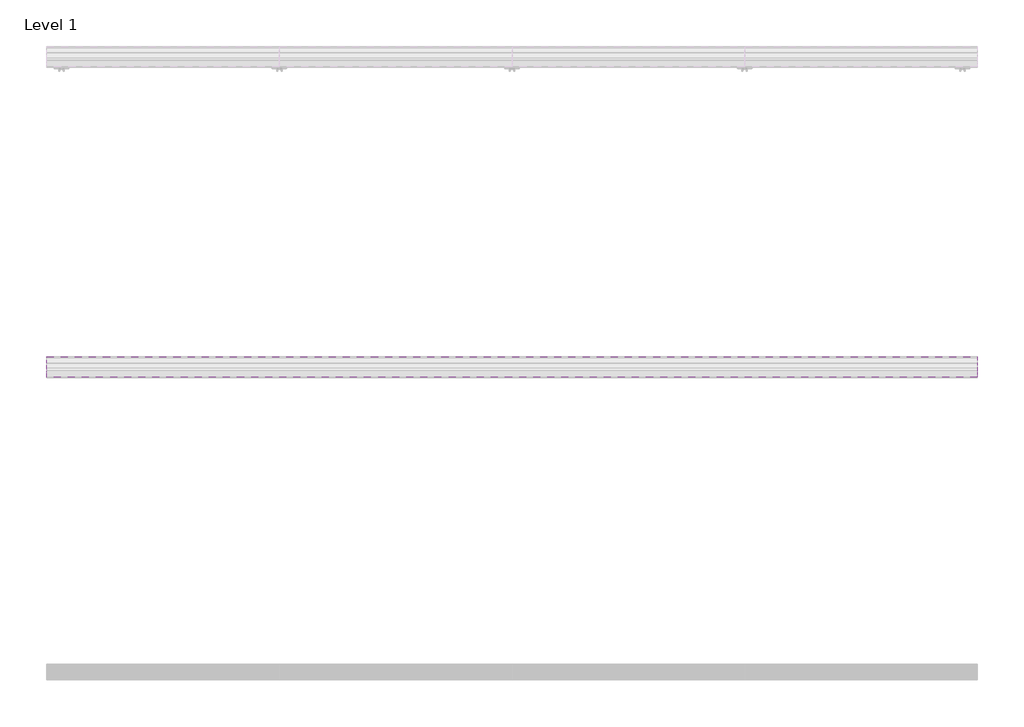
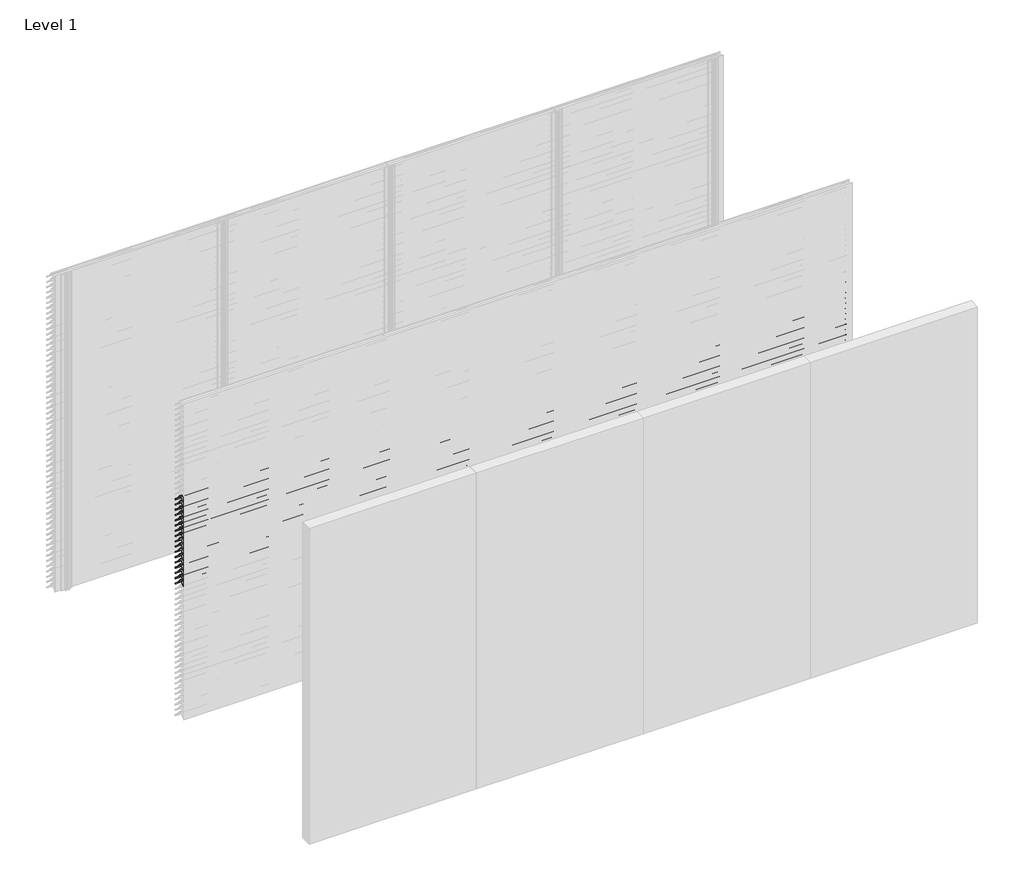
# One storey, part 4 of 173: 17 proxies.
"""IFC4 building model written with IfcOpenShell, lengths in millimetres."""

from ifc_helpers import new_model, si_unit, point, frame, frame_2d, origin, place, context, project, spatial, polyline, circle_curve, trimmed, segment, composite_curve, outline, extrude, element, save

model = new_model("IFC4")

# Units and contexts
model_context = context("Model", 3, world=origin())
ifc_project = project(units=[si_unit("LENGTHUNIT", "METRE", prefix="MILLI")], contexts=[model_context])

# Site, building, storey
site = spatial("IfcSite", under=ifc_project)
building = spatial("IfcBuilding", under=site)
storey = spatial("IfcBuildingStorey", under=building, Name="Level 1", Elevation=0.0)

# Proxies
placement = place(None, origin())
element("IfcBuildingElementProxy", 1, Name="Wall Sweeps", at=placement, inside=storey, context=model_context, shape_type="SweptSolid", body=[
    extrude(outline(composite_curve([segment(polyline([(-55998.0, 2059.1474905), (-55998.0, 2061.6227417)]), True, "CONTINUOUS"), segment(trimmed(circle_curve(frame_2d((-55951.2682172, 2016.2200208)), 65.1557103), [point((-55998.0, 2061.6227417))], [point((-55954.4014323, 2081.3003524))], False, "CARTESIAN"), True, "CONTINUOUS"), segment(polyline([(-55954.4014323, 2081.3003524), (-55934.8315836, 2081.3003524)]), True, "CONTINUOUS"), segment(trimmed(circle_curve(frame_2d((-55732.7329489, 2228.5533172)), 250.0545817), [point((-55934.8315836, 2081.3003524))], [point((-55941.4452143, 2090.8344583))], False, "CARTESIAN"), True, "CONTINUOUS"), segment(trimmed(circle_curve(frame_2d((-55953.2981792, 2085.1737835)), 13.1352966), [point((-55941.4452143, 2090.8344583))], [point((-55953.8171475, 2098.298824))], True, "CARTESIAN"), True, "CONTINUOUS"), segment(polyline([(-55953.8171475, 2098.298824), (-55953.8171475, 2100.0)]), True, "CONTINUOUS"), segment(trimmed(circle_curve(frame_2d((-55953.2981792, 2085.1737835)), 14.8352966), [point((-55953.8171475, 2100.0))], [point((-55939.9637661, 2091.6760487))], False, "CARTESIAN"), True, "CONTINUOUS"), segment(trimmed(circle_curve(frame_2d((-55732.7329489, 2228.5533172)), 248.3545817), [point((-55939.9637661, 2091.6760487))], [point((-55873.8787895, 2024.2059416))], True, "CARTESIAN"), True, "CONTINUOUS"), segment(trimmed(circle_curve(frame_2d((-55883.8147537, 2011.6649442)), 16.0), [point((-55873.8787895, 2024.2059416))], [point((-55867.8648347, 2010.4))], False, "CARTESIAN"), True, "CONTINUOUS"), segment(polyline([(-55867.8648347, 2010.4), (-55869.6712069, 2010.4)]), True, "CONTINUOUS"), segment(trimmed(circle_curve(frame_2d((-55883.8147537, 2011.6649442)), 14.2), [point((-55869.6712069, 2010.4))], [point((-55874.9518628, 2022.7594998))], True, "CARTESIAN"), True, "CONTINUOUS"), segment(trimmed(circle_curve(frame_2d((-55732.7329489, 2228.5533172)), 250.1545817), [point((-55874.9518628, 2022.7594998))], [point((-55933.7064024, 2079.6003524))], False, "CARTESIAN"), True, "CONTINUOUS"), segment(polyline([(-55933.7064024, 2079.6003524), (-55954.3602632, 2079.6003524)]), True, "CONTINUOUS"), segment(trimmed(circle_curve(frame_2d((-55951.2682172, 2016.2200208)), 63.4557103), [point((-55954.3602632, 2079.6003524))], [point((-55998.0, 2059.1474905))], True, "CARTESIAN"), True, "CONTINUOUS")], self_intersect=False)), frame((0.0, 0.0, 0.0), z_axis=(1.0, 0.0, 0.0), x_axis=(0.0, 1.0, 0.0)), (0.0, 0.0, 1.0), 6000.0),
])
element("IfcBuildingElementProxy", 2, Name="Wall Sweeps", at=placement, inside=storey, context=model_context, shape_type="SweptSolid", body=[
    extrude(outline(composite_curve([segment(polyline([(-55998.0, 2009.1474905), (-55998.0, 2011.6227417)]), True, "CONTINUOUS"), segment(trimmed(circle_curve(frame_2d((-55951.2682172, 1966.2200208)), 65.1557103), [point((-55998.0, 2011.6227417))], [point((-55954.4014323, 2031.3003524))], False, "CARTESIAN"), True, "CONTINUOUS"), segment(polyline([(-55954.4014323, 2031.3003524), (-55934.8315836, 2031.3003524)]), True, "CONTINUOUS"), segment(trimmed(circle_curve(frame_2d((-55732.7329489, 2178.5533172)), 250.0545817), [point((-55934.8315836, 2031.3003524))], [point((-55941.4452143, 2040.8344583))], False, "CARTESIAN"), True, "CONTINUOUS"), segment(trimmed(circle_curve(frame_2d((-55953.2981792, 2035.1737835)), 13.1352966), [point((-55941.4452143, 2040.8344583))], [point((-55953.8171475, 2048.298824))], True, "CARTESIAN"), True, "CONTINUOUS"), segment(polyline([(-55953.8171475, 2048.298824), (-55953.8171475, 2050.0)]), True, "CONTINUOUS"), segment(trimmed(circle_curve(frame_2d((-55953.2981792, 2035.1737835)), 14.8352966), [point((-55953.8171475, 2050.0))], [point((-55939.9637661, 2041.6760487))], False, "CARTESIAN"), True, "CONTINUOUS"), segment(trimmed(circle_curve(frame_2d((-55732.7329489, 2178.5533172)), 248.3545817), [point((-55939.9637661, 2041.6760487))], [point((-55873.8787895, 1974.2059416))], True, "CARTESIAN"), True, "CONTINUOUS"), segment(trimmed(circle_curve(frame_2d((-55883.8147537, 1961.6649442)), 16.0), [point((-55873.8787895, 1974.2059416))], [point((-55867.8648347, 1960.4))], False, "CARTESIAN"), True, "CONTINUOUS"), segment(polyline([(-55867.8648347, 1960.4), (-55869.6712069, 1960.4)]), True, "CONTINUOUS"), segment(trimmed(circle_curve(frame_2d((-55883.8147537, 1961.6649442)), 14.2), [point((-55869.6712069, 1960.4))], [point((-55874.9518628, 1972.7594998))], True, "CARTESIAN"), True, "CONTINUOUS"), segment(trimmed(circle_curve(frame_2d((-55732.7329489, 2178.5533172)), 250.1545817), [point((-55874.9518628, 1972.7594998))], [point((-55933.7064024, 2029.6003524))], False, "CARTESIAN"), True, "CONTINUOUS"), segment(polyline([(-55933.7064024, 2029.6003524), (-55954.3602632, 2029.6003524)]), True, "CONTINUOUS"), segment(trimmed(circle_curve(frame_2d((-55951.2682172, 1966.2200208)), 63.4557103), [point((-55954.3602632, 2029.6003524))], [point((-55998.0, 2009.1474905))], True, "CARTESIAN"), True, "CONTINUOUS")], self_intersect=False)), frame((0.0, 0.0, 0.0), z_axis=(1.0, 0.0, 0.0), x_axis=(0.0, 1.0, 0.0)), (0.0, 0.0, 1.0), 6000.0),
])
element("IfcBuildingElementProxy", 3, Name="Wall Sweeps", at=placement, inside=storey, context=model_context, shape_type="SweptSolid", body=[
    extrude(outline(composite_curve([segment(polyline([(-55998.0, 1959.1474905), (-55998.0, 1961.6227417)]), True, "CONTINUOUS"), segment(trimmed(circle_curve(frame_2d((-55951.2682172, 1916.2200208)), 65.1557103), [point((-55998.0, 1961.6227417))], [point((-55954.4014323, 1981.3003524))], False, "CARTESIAN"), True, "CONTINUOUS"), segment(polyline([(-55954.4014323, 1981.3003524), (-55934.8315836, 1981.3003524)]), True, "CONTINUOUS"), segment(trimmed(circle_curve(frame_2d((-55732.7329489, 2128.5533172)), 250.0545817), [point((-55934.8315836, 1981.3003524))], [point((-55941.4452143, 1990.8344583))], False, "CARTESIAN"), True, "CONTINUOUS"), segment(trimmed(circle_curve(frame_2d((-55953.2981792, 1985.1737835)), 13.1352966), [point((-55941.4452143, 1990.8344583))], [point((-55953.8171475, 1998.298824))], True, "CARTESIAN"), True, "CONTINUOUS"), segment(polyline([(-55953.8171475, 1998.298824), (-55953.8171475, 2000.0)]), True, "CONTINUOUS"), segment(trimmed(circle_curve(frame_2d((-55953.2981792, 1985.1737835)), 14.8352966), [point((-55953.8171475, 2000.0))], [point((-55939.9637661, 1991.6760487))], False, "CARTESIAN"), True, "CONTINUOUS"), segment(trimmed(circle_curve(frame_2d((-55732.7329489, 2128.5533172)), 248.3545817), [point((-55939.9637661, 1991.6760487))], [point((-55873.8787895, 1924.2059416))], True, "CARTESIAN"), True, "CONTINUOUS"), segment(trimmed(circle_curve(frame_2d((-55883.8147537, 1911.6649442)), 16.0), [point((-55873.8787895, 1924.2059416))], [point((-55867.8648347, 1910.4))], False, "CARTESIAN"), True, "CONTINUOUS"), segment(polyline([(-55867.8648347, 1910.4), (-55869.6712069, 1910.4)]), True, "CONTINUOUS"), segment(trimmed(circle_curve(frame_2d((-55883.8147537, 1911.6649442)), 14.2), [point((-55869.6712069, 1910.4))], [point((-55874.9518628, 1922.7594998))], True, "CARTESIAN"), True, "CONTINUOUS"), segment(trimmed(circle_curve(frame_2d((-55732.7329489, 2128.5533172)), 250.1545817), [point((-55874.9518628, 1922.7594998))], [point((-55933.7064024, 1979.6003524))], False, "CARTESIAN"), True, "CONTINUOUS"), segment(polyline([(-55933.7064024, 1979.6003524), (-55954.3602632, 1979.6003524)]), True, "CONTINUOUS"), segment(trimmed(circle_curve(frame_2d((-55951.2682172, 1916.2200208)), 63.4557103), [point((-55954.3602632, 1979.6003524))], [point((-55998.0, 1959.1474905))], True, "CARTESIAN"), True, "CONTINUOUS")], self_intersect=False)), frame((0.0, 0.0, 0.0), z_axis=(1.0, 0.0, 0.0), x_axis=(0.0, 1.0, 0.0)), (0.0, 0.0, 1.0), 6000.0),
])
element("IfcBuildingElementProxy", 4, Name="Wall Sweeps", at=placement, inside=storey, context=model_context, shape_type="SweptSolid", body=[
    extrude(outline(composite_curve([segment(polyline([(-55998.0, 1909.1474905), (-55998.0, 1911.6227417)]), True, "CONTINUOUS"), segment(trimmed(circle_curve(frame_2d((-55951.2682172, 1866.2200208)), 65.1557103), [point((-55998.0, 1911.6227417))], [point((-55954.4014323, 1931.3003524))], False, "CARTESIAN"), True, "CONTINUOUS"), segment(polyline([(-55954.4014323, 1931.3003524), (-55934.8315836, 1931.3003524)]), True, "CONTINUOUS"), segment(trimmed(circle_curve(frame_2d((-55732.7329489, 2078.5533172)), 250.0545817), [point((-55934.8315836, 1931.3003524))], [point((-55941.4452143, 1940.8344583))], False, "CARTESIAN"), True, "CONTINUOUS"), segment(trimmed(circle_curve(frame_2d((-55953.2981792, 1935.1737835)), 13.1352966), [point((-55941.4452143, 1940.8344583))], [point((-55953.8171475, 1948.298824))], True, "CARTESIAN"), True, "CONTINUOUS"), segment(polyline([(-55953.8171475, 1948.298824), (-55953.8171475, 1950.0)]), True, "CONTINUOUS"), segment(trimmed(circle_curve(frame_2d((-55953.2981792, 1935.1737835)), 14.8352966), [point((-55953.8171475, 1950.0))], [point((-55939.9637661, 1941.6760487))], False, "CARTESIAN"), True, "CONTINUOUS"), segment(trimmed(circle_curve(frame_2d((-55732.7329489, 2078.5533172)), 248.3545817), [point((-55939.9637661, 1941.6760487))], [point((-55873.8787895, 1874.2059416))], True, "CARTESIAN"), True, "CONTINUOUS"), segment(trimmed(circle_curve(frame_2d((-55883.8147537, 1861.6649442)), 16.0), [point((-55873.8787895, 1874.2059416))], [point((-55867.8648347, 1860.4))], False, "CARTESIAN"), True, "CONTINUOUS"), segment(polyline([(-55867.8648347, 1860.4), (-55869.6712069, 1860.4)]), True, "CONTINUOUS"), segment(trimmed(circle_curve(frame_2d((-55883.8147537, 1861.6649442)), 14.2), [point((-55869.6712069, 1860.4))], [point((-55874.9518628, 1872.7594998))], True, "CARTESIAN"), True, "CONTINUOUS"), segment(trimmed(circle_curve(frame_2d((-55732.7329489, 2078.5533172)), 250.1545817), [point((-55874.9518628, 1872.7594998))], [point((-55933.7064024, 1929.6003524))], False, "CARTESIAN"), True, "CONTINUOUS"), segment(polyline([(-55933.7064024, 1929.6003524), (-55954.3602632, 1929.6003524)]), True, "CONTINUOUS"), segment(trimmed(circle_curve(frame_2d((-55951.2682172, 1866.2200208)), 63.4557103), [point((-55954.3602632, 1929.6003524))], [point((-55998.0, 1909.1474905))], True, "CARTESIAN"), True, "CONTINUOUS")], self_intersect=False)), frame((0.0, 0.0, 0.0), z_axis=(1.0, 0.0, 0.0), x_axis=(0.0, 1.0, 0.0)), (0.0, 0.0, 1.0), 6000.0),
])
element("IfcBuildingElementProxy", 5, Name="Wall Sweeps", at=placement, inside=storey, context=model_context, shape_type="SweptSolid", body=[
    extrude(outline(composite_curve([segment(polyline([(-55998.0, 1859.1474905), (-55998.0, 1861.6227417)]), True, "CONTINUOUS"), segment(trimmed(circle_curve(frame_2d((-55951.2682172, 1816.2200208)), 65.1557103), [point((-55998.0, 1861.6227417))], [point((-55954.4014323, 1881.3003524))], False, "CARTESIAN"), True, "CONTINUOUS"), segment(polyline([(-55954.4014323, 1881.3003524), (-55934.8315836, 1881.3003524)]), True, "CONTINUOUS"), segment(trimmed(circle_curve(frame_2d((-55732.7329489, 2028.5533172)), 250.0545817), [point((-55934.8315836, 1881.3003524))], [point((-55941.4452143, 1890.8344583))], False, "CARTESIAN"), True, "CONTINUOUS"), segment(trimmed(circle_curve(frame_2d((-55953.2981792, 1885.1737835)), 13.1352966), [point((-55941.4452143, 1890.8344583))], [point((-55953.8171475, 1898.298824))], True, "CARTESIAN"), True, "CONTINUOUS"), segment(polyline([(-55953.8171475, 1898.298824), (-55953.8171475, 1900.0)]), True, "CONTINUOUS"), segment(trimmed(circle_curve(frame_2d((-55953.2981792, 1885.1737835)), 14.8352966), [point((-55953.8171475, 1900.0))], [point((-55939.9637661, 1891.6760487))], False, "CARTESIAN"), True, "CONTINUOUS"), segment(trimmed(circle_curve(frame_2d((-55732.7329489, 2028.5533172)), 248.3545817), [point((-55939.9637661, 1891.6760487))], [point((-55873.8787895, 1824.2059416))], True, "CARTESIAN"), True, "CONTINUOUS"), segment(trimmed(circle_curve(frame_2d((-55883.8147537, 1811.6649442)), 16.0), [point((-55873.8787895, 1824.2059416))], [point((-55867.8648347, 1810.4))], False, "CARTESIAN"), True, "CONTINUOUS"), segment(polyline([(-55867.8648347, 1810.4), (-55869.6712069, 1810.4)]), True, "CONTINUOUS"), segment(trimmed(circle_curve(frame_2d((-55883.8147537, 1811.6649442)), 14.2), [point((-55869.6712069, 1810.4))], [point((-55874.9518628, 1822.7594998))], True, "CARTESIAN"), True, "CONTINUOUS"), segment(trimmed(circle_curve(frame_2d((-55732.7329489, 2028.5533172)), 250.1545817), [point((-55874.9518628, 1822.7594998))], [point((-55933.7064024, 1879.6003524))], False, "CARTESIAN"), True, "CONTINUOUS"), segment(polyline([(-55933.7064024, 1879.6003524), (-55954.3602632, 1879.6003524)]), True, "CONTINUOUS"), segment(trimmed(circle_curve(frame_2d((-55951.2682172, 1816.2200208)), 63.4557103), [point((-55954.3602632, 1879.6003524))], [point((-55998.0, 1859.1474905))], True, "CARTESIAN"), True, "CONTINUOUS")], self_intersect=False)), frame((0.0, 0.0, 0.0), z_axis=(1.0, 0.0, 0.0), x_axis=(0.0, 1.0, 0.0)), (0.0, 0.0, 1.0), 6000.0),
])
element("IfcBuildingElementProxy", 6, Name="Wall Sweeps", at=placement, inside=storey, context=model_context, shape_type="SweptSolid", body=[
    extrude(outline(composite_curve([segment(polyline([(-55998.0, 1809.1474905), (-55998.0, 1811.6227417)]), True, "CONTINUOUS"), segment(trimmed(circle_curve(frame_2d((-55951.2682172, 1766.2200208)), 65.1557103), [point((-55998.0, 1811.6227417))], [point((-55954.4014323, 1831.3003524))], False, "CARTESIAN"), True, "CONTINUOUS"), segment(polyline([(-55954.4014323, 1831.3003524), (-55934.8315836, 1831.3003524)]), True, "CONTINUOUS"), segment(trimmed(circle_curve(frame_2d((-55732.7329489, 1978.5533172)), 250.0545817), [point((-55934.8315836, 1831.3003524))], [point((-55941.4452143, 1840.8344583))], False, "CARTESIAN"), True, "CONTINUOUS"), segment(trimmed(circle_curve(frame_2d((-55953.2981792, 1835.1737835)), 13.1352966), [point((-55941.4452143, 1840.8344583))], [point((-55953.8171475, 1848.298824))], True, "CARTESIAN"), True, "CONTINUOUS"), segment(polyline([(-55953.8171475, 1848.298824), (-55953.8171475, 1850.0)]), True, "CONTINUOUS"), segment(trimmed(circle_curve(frame_2d((-55953.2981792, 1835.1737835)), 14.8352966), [point((-55953.8171475, 1850.0))], [point((-55939.9637661, 1841.6760487))], False, "CARTESIAN"), True, "CONTINUOUS"), segment(trimmed(circle_curve(frame_2d((-55732.7329489, 1978.5533172)), 248.3545817), [point((-55939.9637661, 1841.6760487))], [point((-55873.8787895, 1774.2059416))], True, "CARTESIAN"), True, "CONTINUOUS"), segment(trimmed(circle_curve(frame_2d((-55883.8147537, 1761.6649442)), 16.0), [point((-55873.8787895, 1774.2059416))], [point((-55867.8648347, 1760.4))], False, "CARTESIAN"), True, "CONTINUOUS"), segment(polyline([(-55867.8648347, 1760.4), (-55869.6712069, 1760.4)]), True, "CONTINUOUS"), segment(trimmed(circle_curve(frame_2d((-55883.8147537, 1761.6649442)), 14.2), [point((-55869.6712069, 1760.4))], [point((-55874.9518628, 1772.7594998))], True, "CARTESIAN"), True, "CONTINUOUS"), segment(trimmed(circle_curve(frame_2d((-55732.7329489, 1978.5533172)), 250.1545817), [point((-55874.9518628, 1772.7594998))], [point((-55933.7064024, 1829.6003524))], False, "CARTESIAN"), True, "CONTINUOUS"), segment(polyline([(-55933.7064024, 1829.6003524), (-55954.3602632, 1829.6003524)]), True, "CONTINUOUS"), segment(trimmed(circle_curve(frame_2d((-55951.2682172, 1766.2200208)), 63.4557103), [point((-55954.3602632, 1829.6003524))], [point((-55998.0, 1809.1474905))], True, "CARTESIAN"), True, "CONTINUOUS")], self_intersect=False)), frame((0.0, 0.0, 0.0), z_axis=(1.0, 0.0, 0.0), x_axis=(0.0, 1.0, 0.0)), (0.0, 0.0, 1.0), 6000.0),
])
element("IfcBuildingElementProxy", 7, Name="Wall Sweeps", at=placement, inside=storey, context=model_context, shape_type="SweptSolid", body=[
    extrude(outline(composite_curve([segment(polyline([(-55998.0, 1759.1474905), (-55998.0, 1761.6227417)]), True, "CONTINUOUS"), segment(trimmed(circle_curve(frame_2d((-55951.2682172, 1716.2200208)), 65.1557103), [point((-55998.0, 1761.6227417))], [point((-55954.4014323, 1781.3003524))], False, "CARTESIAN"), True, "CONTINUOUS"), segment(polyline([(-55954.4014323, 1781.3003524), (-55934.8315836, 1781.3003524)]), True, "CONTINUOUS"), segment(trimmed(circle_curve(frame_2d((-55732.7329489, 1928.5533172)), 250.0545817), [point((-55934.8315836, 1781.3003524))], [point((-55941.4452143, 1790.8344583))], False, "CARTESIAN"), True, "CONTINUOUS"), segment(trimmed(circle_curve(frame_2d((-55953.2981792, 1785.1737835)), 13.1352966), [point((-55941.4452143, 1790.8344583))], [point((-55953.8171475, 1798.298824))], True, "CARTESIAN"), True, "CONTINUOUS"), segment(polyline([(-55953.8171475, 1798.298824), (-55953.8171475, 1800.0)]), True, "CONTINUOUS"), segment(trimmed(circle_curve(frame_2d((-55953.2981792, 1785.1737835)), 14.8352966), [point((-55953.8171475, 1800.0))], [point((-55939.9637661, 1791.6760487))], False, "CARTESIAN"), True, "CONTINUOUS"), segment(trimmed(circle_curve(frame_2d((-55732.7329489, 1928.5533172)), 248.3545817), [point((-55939.9637661, 1791.6760487))], [point((-55873.8787895, 1724.2059416))], True, "CARTESIAN"), True, "CONTINUOUS"), segment(trimmed(circle_curve(frame_2d((-55883.8147537, 1711.6649442)), 16.0), [point((-55873.8787895, 1724.2059416))], [point((-55867.8648347, 1710.4))], False, "CARTESIAN"), True, "CONTINUOUS"), segment(polyline([(-55867.8648347, 1710.4), (-55869.6712069, 1710.4)]), True, "CONTINUOUS"), segment(trimmed(circle_curve(frame_2d((-55883.8147537, 1711.6649442)), 14.2), [point((-55869.6712069, 1710.4))], [point((-55874.9518628, 1722.7594998))], True, "CARTESIAN"), True, "CONTINUOUS"), segment(trimmed(circle_curve(frame_2d((-55732.7329489, 1928.5533172)), 250.1545817), [point((-55874.9518628, 1722.7594998))], [point((-55933.7064024, 1779.6003524))], False, "CARTESIAN"), True, "CONTINUOUS"), segment(polyline([(-55933.7064024, 1779.6003524), (-55954.3602632, 1779.6003524)]), True, "CONTINUOUS"), segment(trimmed(circle_curve(frame_2d((-55951.2682172, 1716.2200208)), 63.4557103), [point((-55954.3602632, 1779.6003524))], [point((-55998.0, 1759.1474905))], True, "CARTESIAN"), True, "CONTINUOUS")], self_intersect=False)), frame((0.0, 0.0, 0.0), z_axis=(1.0, 0.0, 0.0), x_axis=(0.0, 1.0, 0.0)), (0.0, 0.0, 1.0), 6000.0),
])
element("IfcBuildingElementProxy", 8, Name="Wall Sweeps", at=placement, inside=storey, context=model_context, shape_type="SweptSolid", body=[
    extrude(outline(composite_curve([segment(polyline([(-55998.0, 1709.1474905), (-55998.0, 1711.6227417)]), True, "CONTINUOUS"), segment(trimmed(circle_curve(frame_2d((-55951.2682172, 1666.2200208)), 65.1557103), [point((-55998.0, 1711.6227417))], [point((-55954.4014323, 1731.3003524))], False, "CARTESIAN"), True, "CONTINUOUS"), segment(polyline([(-55954.4014323, 1731.3003524), (-55934.8315836, 1731.3003524)]), True, "CONTINUOUS"), segment(trimmed(circle_curve(frame_2d((-55732.7329489, 1878.5533172)), 250.0545817), [point((-55934.8315836, 1731.3003524))], [point((-55941.4452143, 1740.8344583))], False, "CARTESIAN"), True, "CONTINUOUS"), segment(trimmed(circle_curve(frame_2d((-55953.2981792, 1735.1737835)), 13.1352966), [point((-55941.4452143, 1740.8344583))], [point((-55953.8171475, 1748.298824))], True, "CARTESIAN"), True, "CONTINUOUS"), segment(polyline([(-55953.8171475, 1748.298824), (-55953.8171475, 1750.0)]), True, "CONTINUOUS"), segment(trimmed(circle_curve(frame_2d((-55953.2981792, 1735.1737835)), 14.8352966), [point((-55953.8171475, 1750.0))], [point((-55939.9637661, 1741.6760487))], False, "CARTESIAN"), True, "CONTINUOUS"), segment(trimmed(circle_curve(frame_2d((-55732.7329489, 1878.5533172)), 248.3545817), [point((-55939.9637661, 1741.6760487))], [point((-55873.8787895, 1674.2059416))], True, "CARTESIAN"), True, "CONTINUOUS"), segment(trimmed(circle_curve(frame_2d((-55883.8147537, 1661.6649442)), 16.0), [point((-55873.8787895, 1674.2059416))], [point((-55867.8648347, 1660.4))], False, "CARTESIAN"), True, "CONTINUOUS"), segment(polyline([(-55867.8648347, 1660.4), (-55869.6712069, 1660.4)]), True, "CONTINUOUS"), segment(trimmed(circle_curve(frame_2d((-55883.8147537, 1661.6649442)), 14.2), [point((-55869.6712069, 1660.4))], [point((-55874.9518628, 1672.7594998))], True, "CARTESIAN"), True, "CONTINUOUS"), segment(trimmed(circle_curve(frame_2d((-55732.7329489, 1878.5533172)), 250.1545817), [point((-55874.9518628, 1672.7594998))], [point((-55933.7064024, 1729.6003524))], False, "CARTESIAN"), True, "CONTINUOUS"), segment(polyline([(-55933.7064024, 1729.6003524), (-55954.3602632, 1729.6003524)]), True, "CONTINUOUS"), segment(trimmed(circle_curve(frame_2d((-55951.2682172, 1666.2200208)), 63.4557103), [point((-55954.3602632, 1729.6003524))], [point((-55998.0, 1709.1474905))], True, "CARTESIAN"), True, "CONTINUOUS")], self_intersect=False)), frame((0.0, 0.0, 0.0), z_axis=(1.0, 0.0, 0.0), x_axis=(0.0, 1.0, 0.0)), (0.0, 0.0, 1.0), 6000.0),
])
element("IfcBuildingElementProxy", 9, Name="Wall Sweeps", at=placement, inside=storey, context=model_context, shape_type="SweptSolid", body=[
    extrude(outline(composite_curve([segment(polyline([(-55998.0, 1659.1474905), (-55998.0, 1661.6227417)]), True, "CONTINUOUS"), segment(trimmed(circle_curve(frame_2d((-55951.2682172, 1616.2200208)), 65.1557103), [point((-55998.0, 1661.6227417))], [point((-55954.4014323, 1681.3003524))], False, "CARTESIAN"), True, "CONTINUOUS"), segment(polyline([(-55954.4014323, 1681.3003524), (-55934.8315836, 1681.3003524)]), True, "CONTINUOUS"), segment(trimmed(circle_curve(frame_2d((-55732.7329489, 1828.5533172)), 250.0545817), [point((-55934.8315836, 1681.3003524))], [point((-55941.4452143, 1690.8344583))], False, "CARTESIAN"), True, "CONTINUOUS"), segment(trimmed(circle_curve(frame_2d((-55953.2981792, 1685.1737835)), 13.1352966), [point((-55941.4452143, 1690.8344583))], [point((-55953.8171475, 1698.298824))], True, "CARTESIAN"), True, "CONTINUOUS"), segment(polyline([(-55953.8171475, 1698.298824), (-55953.8171475, 1700.0)]), True, "CONTINUOUS"), segment(trimmed(circle_curve(frame_2d((-55953.2981792, 1685.1737835)), 14.8352966), [point((-55953.8171475, 1700.0))], [point((-55939.9637661, 1691.6760487))], False, "CARTESIAN"), True, "CONTINUOUS"), segment(trimmed(circle_curve(frame_2d((-55732.7329489, 1828.5533172)), 248.3545817), [point((-55939.9637661, 1691.6760487))], [point((-55873.8787895, 1624.2059416))], True, "CARTESIAN"), True, "CONTINUOUS"), segment(trimmed(circle_curve(frame_2d((-55883.8147537, 1611.6649442)), 16.0), [point((-55873.8787895, 1624.2059416))], [point((-55867.8648347, 1610.4))], False, "CARTESIAN"), True, "CONTINUOUS"), segment(polyline([(-55867.8648347, 1610.4), (-55869.6712069, 1610.4)]), True, "CONTINUOUS"), segment(trimmed(circle_curve(frame_2d((-55883.8147537, 1611.6649442)), 14.2), [point((-55869.6712069, 1610.4))], [point((-55874.9518628, 1622.7594998))], True, "CARTESIAN"), True, "CONTINUOUS"), segment(trimmed(circle_curve(frame_2d((-55732.7329489, 1828.5533172)), 250.1545817), [point((-55874.9518628, 1622.7594998))], [point((-55933.7064024, 1679.6003524))], False, "CARTESIAN"), True, "CONTINUOUS"), segment(polyline([(-55933.7064024, 1679.6003524), (-55954.3602632, 1679.6003524)]), True, "CONTINUOUS"), segment(trimmed(circle_curve(frame_2d((-55951.2682172, 1616.2200208)), 63.4557103), [point((-55954.3602632, 1679.6003524))], [point((-55998.0, 1659.1474905))], True, "CARTESIAN"), True, "CONTINUOUS")], self_intersect=False)), frame((0.0, 0.0, 0.0), z_axis=(1.0, 0.0, 0.0), x_axis=(0.0, 1.0, 0.0)), (0.0, 0.0, 1.0), 6000.0),
])
element("IfcBuildingElementProxy", 10, Name="Wall Sweeps", at=placement, inside=storey, context=model_context, shape_type="SweptSolid", body=[
    extrude(outline(composite_curve([segment(polyline([(-55998.0, 1609.1474905), (-55998.0, 1611.6227417)]), True, "CONTINUOUS"), segment(trimmed(circle_curve(frame_2d((-55951.2682172, 1566.2200208)), 65.1557103), [point((-55998.0, 1611.6227417))], [point((-55954.4014323, 1631.3003524))], False, "CARTESIAN"), True, "CONTINUOUS"), segment(polyline([(-55954.4014323, 1631.3003524), (-55934.8315836, 1631.3003524)]), True, "CONTINUOUS"), segment(trimmed(circle_curve(frame_2d((-55732.7329489, 1778.5533172)), 250.0545817), [point((-55934.8315836, 1631.3003524))], [point((-55941.4452143, 1640.8344583))], False, "CARTESIAN"), True, "CONTINUOUS"), segment(trimmed(circle_curve(frame_2d((-55953.2981792, 1635.1737835)), 13.1352966), [point((-55941.4452143, 1640.8344583))], [point((-55953.8171475, 1648.298824))], True, "CARTESIAN"), True, "CONTINUOUS"), segment(polyline([(-55953.8171475, 1648.298824), (-55953.8171475, 1650.0)]), True, "CONTINUOUS"), segment(trimmed(circle_curve(frame_2d((-55953.2981792, 1635.1737835)), 14.8352966), [point((-55953.8171475, 1650.0))], [point((-55939.9637661, 1641.6760487))], False, "CARTESIAN"), True, "CONTINUOUS"), segment(trimmed(circle_curve(frame_2d((-55732.7329489, 1778.5533172)), 248.3545817), [point((-55939.9637661, 1641.6760487))], [point((-55873.8787895, 1574.2059416))], True, "CARTESIAN"), True, "CONTINUOUS"), segment(trimmed(circle_curve(frame_2d((-55883.8147537, 1561.6649442)), 16.0), [point((-55873.8787895, 1574.2059416))], [point((-55867.8648347, 1560.4))], False, "CARTESIAN"), True, "CONTINUOUS"), segment(polyline([(-55867.8648347, 1560.4), (-55869.6712069, 1560.4)]), True, "CONTINUOUS"), segment(trimmed(circle_curve(frame_2d((-55883.8147537, 1561.6649442)), 14.2), [point((-55869.6712069, 1560.4))], [point((-55874.9518628, 1572.7594998))], True, "CARTESIAN"), True, "CONTINUOUS"), segment(trimmed(circle_curve(frame_2d((-55732.7329489, 1778.5533172)), 250.1545817), [point((-55874.9518628, 1572.7594998))], [point((-55933.7064024, 1629.6003524))], False, "CARTESIAN"), True, "CONTINUOUS"), segment(polyline([(-55933.7064024, 1629.6003524), (-55954.3602632, 1629.6003524)]), True, "CONTINUOUS"), segment(trimmed(circle_curve(frame_2d((-55951.2682172, 1566.2200208)), 63.4557103), [point((-55954.3602632, 1629.6003524))], [point((-55998.0, 1609.1474905))], True, "CARTESIAN"), True, "CONTINUOUS")], self_intersect=False)), frame((0.0, 0.0, 0.0), z_axis=(1.0, 0.0, 0.0), x_axis=(0.0, 1.0, 0.0)), (0.0, 0.0, 1.0), 6000.0),
])
element("IfcBuildingElementProxy", 11, Name="Wall Sweeps", at=placement, inside=storey, context=model_context, shape_type="SweptSolid", body=[
    extrude(outline(composite_curve([segment(polyline([(-55998.0, 1559.1474905), (-55998.0, 1561.6227417)]), True, "CONTINUOUS"), segment(trimmed(circle_curve(frame_2d((-55951.2682172, 1516.2200208)), 65.1557103), [point((-55998.0, 1561.6227417))], [point((-55954.4014323, 1581.3003524))], False, "CARTESIAN"), True, "CONTINUOUS"), segment(polyline([(-55954.4014323, 1581.3003524), (-55934.8315836, 1581.3003524)]), True, "CONTINUOUS"), segment(trimmed(circle_curve(frame_2d((-55732.7329489, 1728.5533172)), 250.0545817), [point((-55934.8315836, 1581.3003524))], [point((-55941.4452143, 1590.8344583))], False, "CARTESIAN"), True, "CONTINUOUS"), segment(trimmed(circle_curve(frame_2d((-55953.2981792, 1585.1737835)), 13.1352966), [point((-55941.4452143, 1590.8344583))], [point((-55953.8171475, 1598.298824))], True, "CARTESIAN"), True, "CONTINUOUS"), segment(polyline([(-55953.8171475, 1598.298824), (-55953.8171475, 1600.0)]), True, "CONTINUOUS"), segment(trimmed(circle_curve(frame_2d((-55953.2981792, 1585.1737835)), 14.8352966), [point((-55953.8171475, 1600.0))], [point((-55939.9637661, 1591.6760487))], False, "CARTESIAN"), True, "CONTINUOUS"), segment(trimmed(circle_curve(frame_2d((-55732.7329489, 1728.5533172)), 248.3545817), [point((-55939.9637661, 1591.6760487))], [point((-55873.8787895, 1524.2059416))], True, "CARTESIAN"), True, "CONTINUOUS"), segment(trimmed(circle_curve(frame_2d((-55883.8147537, 1511.6649442)), 16.0), [point((-55873.8787895, 1524.2059416))], [point((-55867.8648347, 1510.4))], False, "CARTESIAN"), True, "CONTINUOUS"), segment(polyline([(-55867.8648347, 1510.4), (-55869.6712069, 1510.4)]), True, "CONTINUOUS"), segment(trimmed(circle_curve(frame_2d((-55883.8147537, 1511.6649442)), 14.2), [point((-55869.6712069, 1510.4))], [point((-55874.9518628, 1522.7594998))], True, "CARTESIAN"), True, "CONTINUOUS"), segment(trimmed(circle_curve(frame_2d((-55732.7329489, 1728.5533172)), 250.1545817), [point((-55874.9518628, 1522.7594998))], [point((-55933.7064024, 1579.6003524))], False, "CARTESIAN"), True, "CONTINUOUS"), segment(polyline([(-55933.7064024, 1579.6003524), (-55954.3602632, 1579.6003524)]), True, "CONTINUOUS"), segment(trimmed(circle_curve(frame_2d((-55951.2682172, 1516.2200208)), 63.4557103), [point((-55954.3602632, 1579.6003524))], [point((-55998.0, 1559.1474905))], True, "CARTESIAN"), True, "CONTINUOUS")], self_intersect=False)), frame((0.0, 0.0, 0.0), z_axis=(1.0, 0.0, 0.0), x_axis=(0.0, 1.0, 0.0)), (0.0, 0.0, 1.0), 6000.0),
])
element("IfcBuildingElementProxy", 12, Name="Wall Sweeps", at=placement, inside=storey, context=model_context, shape_type="SweptSolid", body=[
    extrude(outline(composite_curve([segment(polyline([(-55998.0, 1509.1474905), (-55998.0, 1511.6227417)]), True, "CONTINUOUS"), segment(trimmed(circle_curve(frame_2d((-55951.2682172, 1466.2200208)), 65.1557103), [point((-55998.0, 1511.6227417))], [point((-55954.4014323, 1531.3003524))], False, "CARTESIAN"), True, "CONTINUOUS"), segment(polyline([(-55954.4014323, 1531.3003524), (-55934.8315836, 1531.3003524)]), True, "CONTINUOUS"), segment(trimmed(circle_curve(frame_2d((-55732.7329489, 1678.5533172)), 250.0545817), [point((-55934.8315836, 1531.3003524))], [point((-55941.4452143, 1540.8344583))], False, "CARTESIAN"), True, "CONTINUOUS"), segment(trimmed(circle_curve(frame_2d((-55953.2981792, 1535.1737835)), 13.1352966), [point((-55941.4452143, 1540.8344583))], [point((-55953.8171475, 1548.298824))], True, "CARTESIAN"), True, "CONTINUOUS"), segment(polyline([(-55953.8171475, 1548.298824), (-55953.8171475, 1550.0)]), True, "CONTINUOUS"), segment(trimmed(circle_curve(frame_2d((-55953.2981792, 1535.1737835)), 14.8352966), [point((-55953.8171475, 1550.0))], [point((-55939.9637661, 1541.6760487))], False, "CARTESIAN"), True, "CONTINUOUS"), segment(trimmed(circle_curve(frame_2d((-55732.7329489, 1678.5533172)), 248.3545817), [point((-55939.9637661, 1541.6760487))], [point((-55873.8787895, 1474.2059416))], True, "CARTESIAN"), True, "CONTINUOUS"), segment(trimmed(circle_curve(frame_2d((-55883.8147537, 1461.6649442)), 16.0), [point((-55873.8787895, 1474.2059416))], [point((-55867.8648347, 1460.4))], False, "CARTESIAN"), True, "CONTINUOUS"), segment(polyline([(-55867.8648347, 1460.4), (-55869.6712069, 1460.4)]), True, "CONTINUOUS"), segment(trimmed(circle_curve(frame_2d((-55883.8147537, 1461.6649442)), 14.2), [point((-55869.6712069, 1460.4))], [point((-55874.9518628, 1472.7594998))], True, "CARTESIAN"), True, "CONTINUOUS"), segment(trimmed(circle_curve(frame_2d((-55732.7329489, 1678.5533172)), 250.1545817), [point((-55874.9518628, 1472.7594998))], [point((-55933.7064024, 1529.6003524))], False, "CARTESIAN"), True, "CONTINUOUS"), segment(polyline([(-55933.7064024, 1529.6003524), (-55954.3602632, 1529.6003524)]), True, "CONTINUOUS"), segment(trimmed(circle_curve(frame_2d((-55951.2682172, 1466.2200208)), 63.4557103), [point((-55954.3602632, 1529.6003524))], [point((-55998.0, 1509.1474905))], True, "CARTESIAN"), True, "CONTINUOUS")], self_intersect=False)), frame((0.0, 0.0, 0.0), z_axis=(1.0, 0.0, 0.0), x_axis=(0.0, 1.0, 0.0)), (0.0, 0.0, 1.0), 6000.0),
])
element("IfcBuildingElementProxy", 13, Name="Wall Sweeps", at=placement, inside=storey, context=model_context, shape_type="SweptSolid", body=[
    extrude(outline(composite_curve([segment(polyline([(-55998.0, 1459.1474905), (-55998.0, 1461.6227417)]), True, "CONTINUOUS"), segment(trimmed(circle_curve(frame_2d((-55951.2682172, 1416.2200208)), 65.1557103), [point((-55998.0, 1461.6227417))], [point((-55954.4014323, 1481.3003524))], False, "CARTESIAN"), True, "CONTINUOUS"), segment(polyline([(-55954.4014323, 1481.3003524), (-55934.8315836, 1481.3003524)]), True, "CONTINUOUS"), segment(trimmed(circle_curve(frame_2d((-55732.7329489, 1628.5533172)), 250.0545817), [point((-55934.8315836, 1481.3003524))], [point((-55941.4452143, 1490.8344583))], False, "CARTESIAN"), True, "CONTINUOUS"), segment(trimmed(circle_curve(frame_2d((-55953.2981792, 1485.1737835)), 13.1352966), [point((-55941.4452143, 1490.8344583))], [point((-55953.8171475, 1498.298824))], True, "CARTESIAN"), True, "CONTINUOUS"), segment(polyline([(-55953.8171475, 1498.298824), (-55953.8171475, 1500.0)]), True, "CONTINUOUS"), segment(trimmed(circle_curve(frame_2d((-55953.2981792, 1485.1737835)), 14.8352966), [point((-55953.8171475, 1500.0))], [point((-55939.9637661, 1491.6760487))], False, "CARTESIAN"), True, "CONTINUOUS"), segment(trimmed(circle_curve(frame_2d((-55732.7329489, 1628.5533172)), 248.3545817), [point((-55939.9637661, 1491.6760487))], [point((-55873.8787895, 1424.2059416))], True, "CARTESIAN"), True, "CONTINUOUS"), segment(trimmed(circle_curve(frame_2d((-55883.8147537, 1411.6649442)), 16.0), [point((-55873.8787895, 1424.2059416))], [point((-55867.8648347, 1410.4))], False, "CARTESIAN"), True, "CONTINUOUS"), segment(polyline([(-55867.8648347, 1410.4), (-55869.6712069, 1410.4)]), True, "CONTINUOUS"), segment(trimmed(circle_curve(frame_2d((-55883.8147537, 1411.6649442)), 14.2), [point((-55869.6712069, 1410.4))], [point((-55874.9518628, 1422.7594998))], True, "CARTESIAN"), True, "CONTINUOUS"), segment(trimmed(circle_curve(frame_2d((-55732.7329489, 1628.5533172)), 250.1545817), [point((-55874.9518628, 1422.7594998))], [point((-55933.7064024, 1479.6003524))], False, "CARTESIAN"), True, "CONTINUOUS"), segment(polyline([(-55933.7064024, 1479.6003524), (-55954.3602632, 1479.6003524)]), True, "CONTINUOUS"), segment(trimmed(circle_curve(frame_2d((-55951.2682172, 1416.2200208)), 63.4557103), [point((-55954.3602632, 1479.6003524))], [point((-55998.0, 1459.1474905))], True, "CARTESIAN"), True, "CONTINUOUS")], self_intersect=False)), frame((0.0, 0.0, 0.0), z_axis=(1.0, 0.0, 0.0), x_axis=(0.0, 1.0, 0.0)), (0.0, 0.0, 1.0), 6000.0),
])
element("IfcBuildingElementProxy", 14, Name="Wall Sweeps", at=placement, inside=storey, context=model_context, shape_type="SweptSolid", body=[
    extrude(outline(composite_curve([segment(polyline([(-55998.0, 1409.1474905), (-55998.0, 1411.6227417)]), True, "CONTINUOUS"), segment(trimmed(circle_curve(frame_2d((-55951.2682172, 1366.2200208)), 65.1557103), [point((-55998.0, 1411.6227417))], [point((-55954.4014323, 1431.3003524))], False, "CARTESIAN"), True, "CONTINUOUS"), segment(polyline([(-55954.4014323, 1431.3003524), (-55934.8315836, 1431.3003524)]), True, "CONTINUOUS"), segment(trimmed(circle_curve(frame_2d((-55732.7329489, 1578.5533172)), 250.0545817), [point((-55934.8315836, 1431.3003524))], [point((-55941.4452143, 1440.8344583))], False, "CARTESIAN"), True, "CONTINUOUS"), segment(trimmed(circle_curve(frame_2d((-55953.2981792, 1435.1737835)), 13.1352966), [point((-55941.4452143, 1440.8344583))], [point((-55953.8171475, 1448.298824))], True, "CARTESIAN"), True, "CONTINUOUS"), segment(polyline([(-55953.8171475, 1448.298824), (-55953.8171475, 1450.0)]), True, "CONTINUOUS"), segment(trimmed(circle_curve(frame_2d((-55953.2981792, 1435.1737835)), 14.8352966), [point((-55953.8171475, 1450.0))], [point((-55939.9637661, 1441.6760487))], False, "CARTESIAN"), True, "CONTINUOUS"), segment(trimmed(circle_curve(frame_2d((-55732.7329489, 1578.5533172)), 248.3545817), [point((-55939.9637661, 1441.6760487))], [point((-55873.8787895, 1374.2059416))], True, "CARTESIAN"), True, "CONTINUOUS"), segment(trimmed(circle_curve(frame_2d((-55883.8147537, 1361.6649442)), 16.0), [point((-55873.8787895, 1374.2059416))], [point((-55867.8648347, 1360.4))], False, "CARTESIAN"), True, "CONTINUOUS"), segment(polyline([(-55867.8648347, 1360.4), (-55869.6712069, 1360.4)]), True, "CONTINUOUS"), segment(trimmed(circle_curve(frame_2d((-55883.8147537, 1361.6649442)), 14.2), [point((-55869.6712069, 1360.4))], [point((-55874.9518628, 1372.7594998))], True, "CARTESIAN"), True, "CONTINUOUS"), segment(trimmed(circle_curve(frame_2d((-55732.7329489, 1578.5533172)), 250.1545817), [point((-55874.9518628, 1372.7594998))], [point((-55933.7064024, 1429.6003524))], False, "CARTESIAN"), True, "CONTINUOUS"), segment(polyline([(-55933.7064024, 1429.6003524), (-55954.3602632, 1429.6003524)]), True, "CONTINUOUS"), segment(trimmed(circle_curve(frame_2d((-55951.2682172, 1366.2200208)), 63.4557103), [point((-55954.3602632, 1429.6003524))], [point((-55998.0, 1409.1474905))], True, "CARTESIAN"), True, "CONTINUOUS")], self_intersect=False)), frame((0.0, 0.0, 0.0), z_axis=(1.0, 0.0, 0.0), x_axis=(0.0, 1.0, 0.0)), (0.0, 0.0, 1.0), 6000.0),
])
element("IfcBuildingElementProxy", 15, Name="Wall Sweeps", at=placement, inside=storey, context=model_context, shape_type="SweptSolid", body=[
    extrude(outline(composite_curve([segment(polyline([(-55998.0, 1359.1474905), (-55998.0, 1361.6227417)]), True, "CONTINUOUS"), segment(trimmed(circle_curve(frame_2d((-55951.2682172, 1316.2200208)), 65.1557103), [point((-55998.0, 1361.6227417))], [point((-55954.4014323, 1381.3003524))], False, "CARTESIAN"), True, "CONTINUOUS"), segment(polyline([(-55954.4014323, 1381.3003524), (-55934.8315836, 1381.3003524)]), True, "CONTINUOUS"), segment(trimmed(circle_curve(frame_2d((-55732.7329489, 1528.5533172)), 250.0545817), [point((-55934.8315836, 1381.3003524))], [point((-55941.4452143, 1390.8344583))], False, "CARTESIAN"), True, "CONTINUOUS"), segment(trimmed(circle_curve(frame_2d((-55953.2981792, 1385.1737835)), 13.1352966), [point((-55941.4452143, 1390.8344583))], [point((-55953.8171475, 1398.298824))], True, "CARTESIAN"), True, "CONTINUOUS"), segment(polyline([(-55953.8171475, 1398.298824), (-55953.8171475, 1400.0)]), True, "CONTINUOUS"), segment(trimmed(circle_curve(frame_2d((-55953.2981792, 1385.1737835)), 14.8352966), [point((-55953.8171475, 1400.0))], [point((-55939.9637661, 1391.6760487))], False, "CARTESIAN"), True, "CONTINUOUS"), segment(trimmed(circle_curve(frame_2d((-55732.7329489, 1528.5533172)), 248.3545817), [point((-55939.9637661, 1391.6760487))], [point((-55873.8787895, 1324.2059416))], True, "CARTESIAN"), True, "CONTINUOUS"), segment(trimmed(circle_curve(frame_2d((-55883.8147537, 1311.6649442)), 16.0), [point((-55873.8787895, 1324.2059416))], [point((-55867.8648347, 1310.4))], False, "CARTESIAN"), True, "CONTINUOUS"), segment(polyline([(-55867.8648347, 1310.4), (-55869.6712069, 1310.4)]), True, "CONTINUOUS"), segment(trimmed(circle_curve(frame_2d((-55883.8147537, 1311.6649442)), 14.2), [point((-55869.6712069, 1310.4))], [point((-55874.9518628, 1322.7594998))], True, "CARTESIAN"), True, "CONTINUOUS"), segment(trimmed(circle_curve(frame_2d((-55732.7329489, 1528.5533172)), 250.1545817), [point((-55874.9518628, 1322.7594998))], [point((-55933.7064024, 1379.6003524))], False, "CARTESIAN"), True, "CONTINUOUS"), segment(polyline([(-55933.7064024, 1379.6003524), (-55954.3602632, 1379.6003524)]), True, "CONTINUOUS"), segment(trimmed(circle_curve(frame_2d((-55951.2682172, 1316.2200208)), 63.4557103), [point((-55954.3602632, 1379.6003524))], [point((-55998.0, 1359.1474905))], True, "CARTESIAN"), True, "CONTINUOUS")], self_intersect=False)), frame((0.0, 0.0, 0.0), z_axis=(1.0, 0.0, 0.0), x_axis=(0.0, 1.0, 0.0)), (0.0, 0.0, 1.0), 6000.0),
])
element("IfcBuildingElementProxy", 16, Name="Wall Sweeps", at=placement, inside=storey, context=model_context, shape_type="SweptSolid", body=[
    extrude(outline(composite_curve([segment(polyline([(-55998.0, 1309.1474905), (-55998.0, 1311.6227417)]), True, "CONTINUOUS"), segment(trimmed(circle_curve(frame_2d((-55951.2682172, 1266.2200208)), 65.1557103), [point((-55998.0, 1311.6227417))], [point((-55954.4014323, 1331.3003524))], False, "CARTESIAN"), True, "CONTINUOUS"), segment(polyline([(-55954.4014323, 1331.3003524), (-55934.8315836, 1331.3003524)]), True, "CONTINUOUS"), segment(trimmed(circle_curve(frame_2d((-55732.7329489, 1478.5533172)), 250.0545817), [point((-55934.8315836, 1331.3003524))], [point((-55941.4452143, 1340.8344583))], False, "CARTESIAN"), True, "CONTINUOUS"), segment(trimmed(circle_curve(frame_2d((-55953.2981792, 1335.1737835)), 13.1352966), [point((-55941.4452143, 1340.8344583))], [point((-55953.8171475, 1348.298824))], True, "CARTESIAN"), True, "CONTINUOUS"), segment(polyline([(-55953.8171475, 1348.298824), (-55953.8171475, 1350.0)]), True, "CONTINUOUS"), segment(trimmed(circle_curve(frame_2d((-55953.2981792, 1335.1737835)), 14.8352966), [point((-55953.8171475, 1350.0))], [point((-55939.9637661, 1341.6760487))], False, "CARTESIAN"), True, "CONTINUOUS"), segment(trimmed(circle_curve(frame_2d((-55732.7329489, 1478.5533172)), 248.3545817), [point((-55939.9637661, 1341.6760487))], [point((-55873.8787895, 1274.2059416))], True, "CARTESIAN"), True, "CONTINUOUS"), segment(trimmed(circle_curve(frame_2d((-55883.8147537, 1261.6649442)), 16.0), [point((-55873.8787895, 1274.2059416))], [point((-55867.8648347, 1260.4))], False, "CARTESIAN"), True, "CONTINUOUS"), segment(polyline([(-55867.8648347, 1260.4), (-55869.6712069, 1260.4)]), True, "CONTINUOUS"), segment(trimmed(circle_curve(frame_2d((-55883.8147537, 1261.6649442)), 14.2), [point((-55869.6712069, 1260.4))], [point((-55874.9518628, 1272.7594998))], True, "CARTESIAN"), True, "CONTINUOUS"), segment(trimmed(circle_curve(frame_2d((-55732.7329489, 1478.5533172)), 250.1545817), [point((-55874.9518628, 1272.7594998))], [point((-55933.7064024, 1329.6003524))], False, "CARTESIAN"), True, "CONTINUOUS"), segment(polyline([(-55933.7064024, 1329.6003524), (-55954.3602632, 1329.6003524)]), True, "CONTINUOUS"), segment(trimmed(circle_curve(frame_2d((-55951.2682172, 1266.2200208)), 63.4557103), [point((-55954.3602632, 1329.6003524))], [point((-55998.0, 1309.1474905))], True, "CARTESIAN"), True, "CONTINUOUS")], self_intersect=False)), frame((0.0, 0.0, 0.0), z_axis=(1.0, 0.0, 0.0), x_axis=(0.0, 1.0, 0.0)), (0.0, 0.0, 1.0), 6000.0),
])
element("IfcBuildingElementProxy", 17, Name="Wall Sweeps", at=placement, inside=storey, context=model_context, shape_type="SweptSolid", body=[
    extrude(outline(composite_curve([segment(polyline([(-55998.0, 1259.1474905), (-55998.0, 1261.6227417)]), True, "CONTINUOUS"), segment(trimmed(circle_curve(frame_2d((-55951.2682172, 1216.2200208)), 65.1557103), [point((-55998.0, 1261.6227417))], [point((-55954.4014323, 1281.3003524))], False, "CARTESIAN"), True, "CONTINUOUS"), segment(polyline([(-55954.4014323, 1281.3003524), (-55934.8315836, 1281.3003524)]), True, "CONTINUOUS"), segment(trimmed(circle_curve(frame_2d((-55732.7329489, 1428.5533172)), 250.0545817), [point((-55934.8315836, 1281.3003524))], [point((-55941.4452143, 1290.8344583))], False, "CARTESIAN"), True, "CONTINUOUS"), segment(trimmed(circle_curve(frame_2d((-55953.2981792, 1285.1737835)), 13.1352966), [point((-55941.4452143, 1290.8344583))], [point((-55953.8171475, 1298.298824))], True, "CARTESIAN"), True, "CONTINUOUS"), segment(polyline([(-55953.8171475, 1298.298824), (-55953.8171475, 1300.0)]), True, "CONTINUOUS"), segment(trimmed(circle_curve(frame_2d((-55953.2981792, 1285.1737835)), 14.8352966), [point((-55953.8171475, 1300.0))], [point((-55939.9637661, 1291.6760487))], False, "CARTESIAN"), True, "CONTINUOUS"), segment(trimmed(circle_curve(frame_2d((-55732.7329489, 1428.5533172)), 248.3545817), [point((-55939.9637661, 1291.6760487))], [point((-55873.8787895, 1224.2059416))], True, "CARTESIAN"), True, "CONTINUOUS"), segment(trimmed(circle_curve(frame_2d((-55883.8147537, 1211.6649442)), 16.0), [point((-55873.8787895, 1224.2059416))], [point((-55867.8648347, 1210.4))], False, "CARTESIAN"), True, "CONTINUOUS"), segment(polyline([(-55867.8648347, 1210.4), (-55869.6712069, 1210.4)]), True, "CONTINUOUS"), segment(trimmed(circle_curve(frame_2d((-55883.8147537, 1211.6649442)), 14.2), [point((-55869.6712069, 1210.4))], [point((-55874.9518628, 1222.7594998))], True, "CARTESIAN"), True, "CONTINUOUS"), segment(trimmed(circle_curve(frame_2d((-55732.7329489, 1428.5533172)), 250.1545817), [point((-55874.9518628, 1222.7594998))], [point((-55933.7064024, 1279.6003524))], False, "CARTESIAN"), True, "CONTINUOUS"), segment(polyline([(-55933.7064024, 1279.6003524), (-55954.3602632, 1279.6003524)]), True, "CONTINUOUS"), segment(trimmed(circle_curve(frame_2d((-55951.2682172, 1216.2200208)), 63.4557103), [point((-55954.3602632, 1279.6003524))], [point((-55998.0, 1259.1474905))], True, "CARTESIAN"), True, "CONTINUOUS")], self_intersect=False)), frame((0.0, 0.0, 0.0), z_axis=(1.0, 0.0, 0.0), x_axis=(0.0, 1.0, 0.0)), (0.0, 0.0, 1.0), 6000.0),
])

save(model, "model.ifc")
